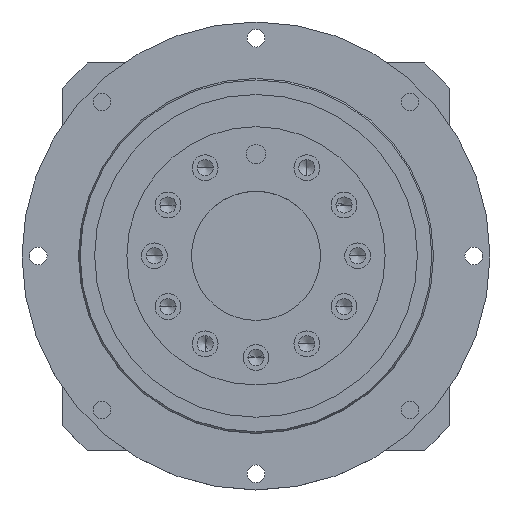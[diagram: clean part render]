
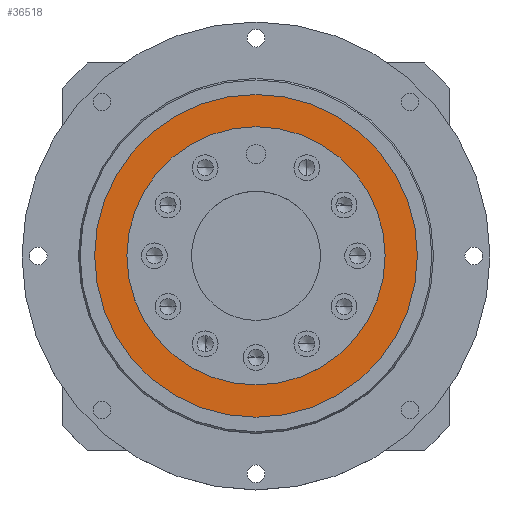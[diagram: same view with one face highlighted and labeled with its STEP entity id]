
A CAD part, top view. The second image highlights one B-rep face of the part: STEP entity #36518.
In plain terms, the highlighted planar face has unit normal (0, 0, 1).
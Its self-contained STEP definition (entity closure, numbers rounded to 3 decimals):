
#400 = EDGE_CURVE ( 'NONE', #683, #4679, #6216, .T. ) ;
#683 = VERTEX_POINT ( 'NONE', #37177 ) ;
#1952 = EDGE_CURVE ( 'NONE', #18912, #1996, #22989, .T. ) ;
#1996 = VERTEX_POINT ( 'NONE', #4504 ) ;
#4504 = CARTESIAN_POINT ( 'NONE',  ( -50., 0., -0.5 ) ) ;
#4592 = DIRECTION ( 'NONE',  ( 1., 0., 0. ) ) ;
#4651 = DIRECTION ( 'NONE',  ( 0., 0., 1. ) ) ;
#4661 = CARTESIAN_POINT ( 'NONE',  ( 0., 0., -0.5 ) ) ;
#4679 = VERTEX_POINT ( 'NONE', #11554 ) ;
#6216 = CIRCLE ( 'NONE', #42136, 40. ) ;
#7291 = EDGE_LOOP ( 'NONE', ( #14034, #40468 ) ) ;
#8501 = DIRECTION ( 'NONE',  ( 1., 0., 0. ) ) ;
#8549 = DIRECTION ( 'NONE',  ( 0., 0., 1. ) ) ;
#8554 = CARTESIAN_POINT ( 'NONE',  ( 0., 0., -0.5 ) ) ;
#8992 = ORIENTED_EDGE ( 'NONE', *, *, #26454, .F. ) ;
#9208 = DIRECTION ( 'NONE',  ( 0., 0., 1. ) ) ;
#10108 = DIRECTION ( 'NONE',  ( -1., 0., 0. ) ) ;
#11554 = CARTESIAN_POINT ( 'NONE',  ( 40., 0., -0.5 ) ) ;
#14034 = ORIENTED_EDGE ( 'NONE', *, *, #1952, .T. ) ;
#16670 = EDGE_LOOP ( 'NONE', ( #20044, #8992 ) ) ;
#18185 = EDGE_CURVE ( 'NONE', #1996, #18912, #18199, .T. ) ;
#18199 = CIRCLE ( 'NONE', #18671, 50. ) ;
#18671 = AXIS2_PLACEMENT_3D ( 'NONE', #8554, #8549, #8501 ) ;
#18912 = VERTEX_POINT ( 'NONE', #38495 ) ;
#20044 = ORIENTED_EDGE ( 'NONE', *, *, #400, .F. ) ;
#21002 = DIRECTION ( 'NONE',  ( 0., 0., -1. ) ) ;
#22989 = CIRCLE ( 'NONE', #45251, 50. ) ;
#23903 = CIRCLE ( 'NONE', #27013, 40. ) ;
#26454 = EDGE_CURVE ( 'NONE', #4679, #683, #23903, .T. ) ;
#27013 = AXIS2_PLACEMENT_3D ( 'NONE', #30989, #9208, #34635 ) ;
#28278 = CARTESIAN_POINT ( 'NONE',  ( 0., 50., -0.5 ) ) ;
#29366 = FACE_BOUND ( 'NONE', #16670, .T. ) ;
#30989 = CARTESIAN_POINT ( 'NONE',  ( 0., 0., -0.5 ) ) ;
#31913 = PLANE ( 'NONE',  #44395 ) ;
#34635 = DIRECTION ( 'NONE',  ( -1., 0., 0. ) ) ;
#36518 = ADVANCED_FACE ( 'NONE', ( #29366, #36894 ), #31913, .F. ) ;
#36894 = FACE_OUTER_BOUND ( 'NONE', #7291, .T. ) ;
#37177 = CARTESIAN_POINT ( 'NONE',  ( -40., 0., -0.5 ) ) ;
#38495 = CARTESIAN_POINT ( 'NONE',  ( 50., 0., -0.5 ) ) ;
#40468 = ORIENTED_EDGE ( 'NONE', *, *, #18185, .T. ) ;
#42136 = AXIS2_PLACEMENT_3D ( 'NONE', #45365, #45318, #45309 ) ;
#44395 = AXIS2_PLACEMENT_3D ( 'NONE', #28278, #21002, #10108 ) ;
#45251 = AXIS2_PLACEMENT_3D ( 'NONE', #4661, #4651, #4592 ) ;
#45309 = DIRECTION ( 'NONE',  ( -1., 0., 0. ) ) ;
#45318 = DIRECTION ( 'NONE',  ( 0., 0., 1. ) ) ;
#45365 = CARTESIAN_POINT ( 'NONE',  ( 0., 0., -0.5 ) ) ;
